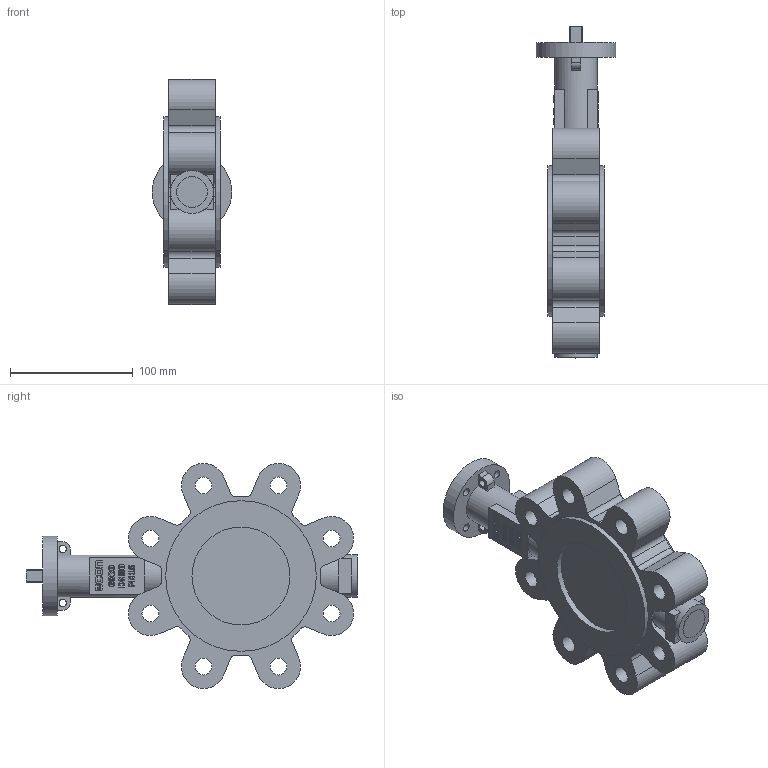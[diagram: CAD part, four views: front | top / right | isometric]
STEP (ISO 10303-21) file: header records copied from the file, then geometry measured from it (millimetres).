
FILE_DESCRIPTION(/* description */ (''),/* implementation_level */ '2;1');
FILE_NAME(/* name */ '6820-DN80-PN16-NBR - 13332780.stp',/* time_stamp */ '2024-09-04T21:55:15+02:00',/* author */ ('roger.thijssen'),/* organization */ (''),/* preprocessor_version */ 'ST-DEVELOPER v20',/* originating_system */ 'Autodesk Inventor 2024',/* authorisation */ '');
FILE_SCHEMA (('AUTOMOTIVE_DESIGN { 1 0 10303 214 3 1 1 }'));
Length unit declared in the file: millimetre
Products named in the file (1): 6820-DN80-PN16
Bounding box: 65 x 271 x 183.79 mm (x, y, z)
Volume: 983223.7 mm3; surface area: 111994.5 mm2
Topology: 1 solids, 1 shells, 481 faces, 1306 edges, 867 vertices
Faces by surface type: plane 242, bspline 137, cylinder 97, cone 5
Full cylindrical faces by diameter (mm): 4.917 x1, 6 x2, 6.5 x4, 13.835 x8, 25 x1, 35 x2, 65 x1, 80 x2, 123 x2
Entity records: 17022 total; most frequent: CARTESIAN_POINT 5043, ORIENTED_EDGE 2610, DIRECTION 1913, EDGE_CURVE 1305, VERTEX_POINT 867, LINE 791, VECTOR 791, AXIS2_PLACEMENT_3D 561
